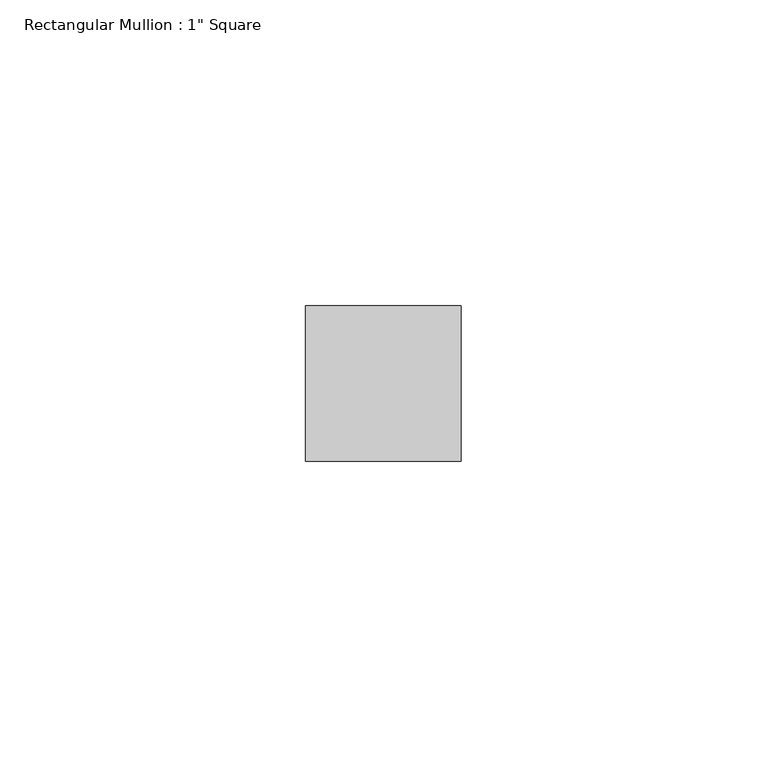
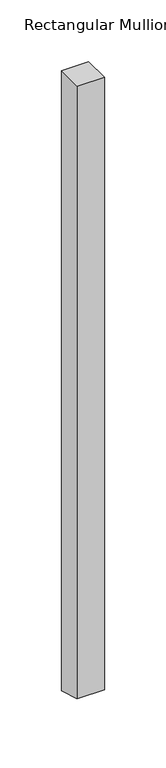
"""IFC4 building model written with IfcOpenShell, lengths in millimetres: member geometry."""

from ifc_helpers import new_model, si_unit, origin, place, context, project, spatial, faceted_brep, source, transform, mapped, element, save


def member_54c9b6a8(model_context):
    return source(origin(), model_context, "Body", "Brep", [
        faceted_brep([(0.0, 12.7, 0.0), (-25.4, 12.7, 0.0), (-25.4, -12.7, 0.0), (0.0, -12.7, 0.0), (0.0, 12.7, -613.3076225), (-25.4, 12.7, -613.1518649), (-25.4, -12.7, -605.73662), (0.0, -12.7, -605.8923775)], [[[0, 1, 2, 3]], [[1, 0, 4, 5]], [[2, 1, 5, 6]], [[3, 2, 6, 7]], [[0, 3, 7, 4]], [[4, 7, 6, 5]]]),
    ])


if __name__ == "__main__":
    model = new_model("IFC4")
    model_context = context("Model", 3, world=origin())
    ifc_project = project(units=[si_unit("LENGTHUNIT", "METRE", prefix="MILLI")], contexts=[model_context])
    site = spatial("IfcSite", under=ifc_project)
    building = spatial("IfcBuilding", under=site)
    placement = place(None, origin())
    member_shape = member_54c9b6a8(model_context)
    element("IfcMember", 1, ObjectType="Rectangular Mullion : 1\" Square", at=placement, inside=building, context=model_context, shape_type="MappedRepresentation", body=[
        mapped(member_shape, transform((0.0, 0.0, 0.0), x_axis=(1.0, 0.0, 0.0), y_axis=(0.0, 1.0, 0.0), z_axis=(0.0, 0.0, 1.0))),
    ])
    save(model, "model.ifc")
